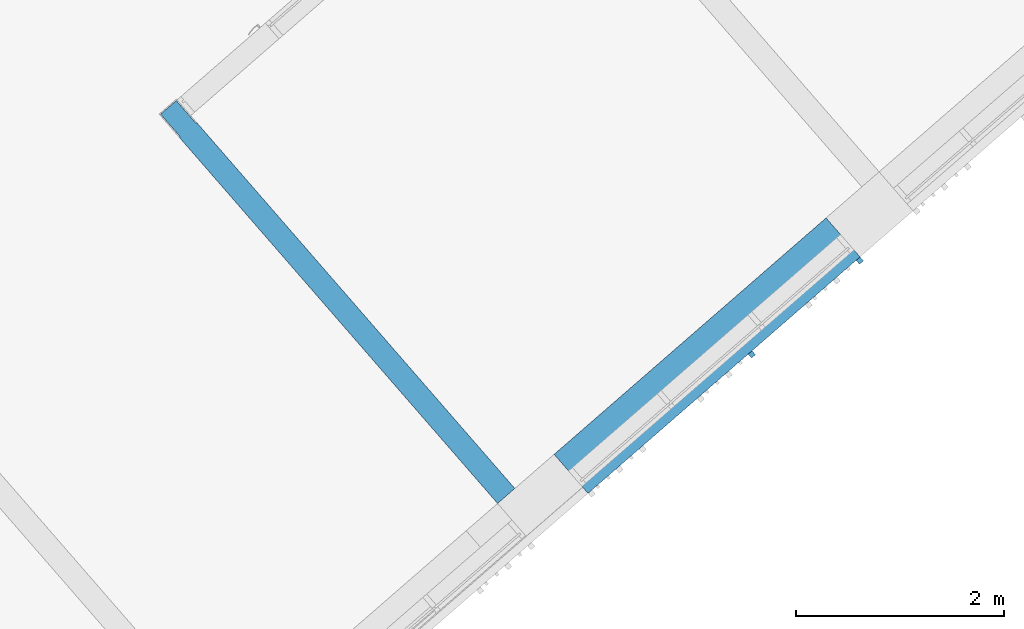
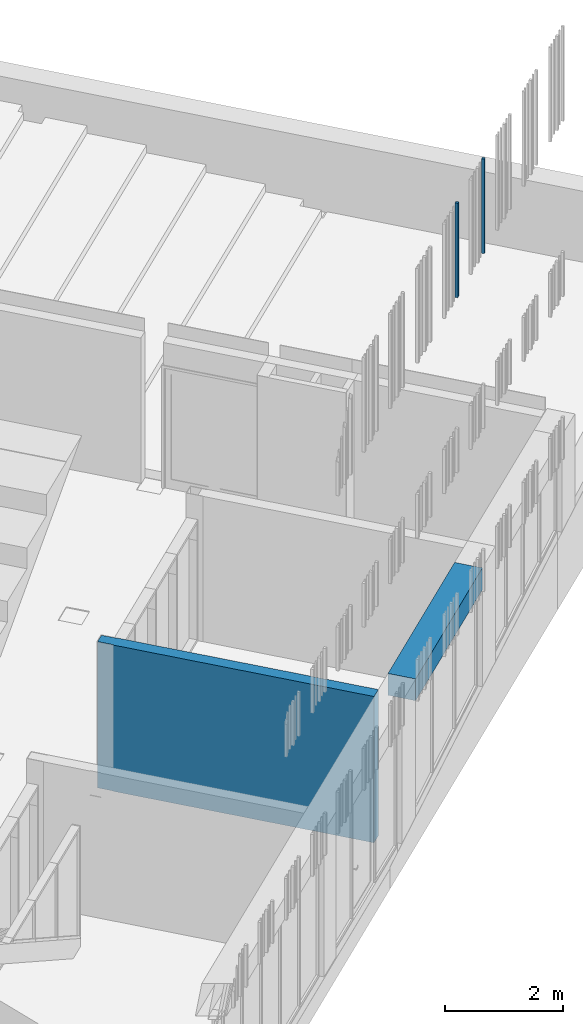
# One storey, part 71 of 124: 4 walls.
"""IFC2X3 building model written with IfcOpenShell, lengths in millimetres."""

from ifc_helpers import new_model, entity, si_unit, converted_unit, derived_unit, money_unit, direction, frame, origin_with_axes, place, context, subcontext, project, spatial, faceted_brep, material, material_list, type_object, element, save


model = new_model("IFC2X3")

# Units and contexts
model_context = context("Model", 3, precision=1e-05, world=origin_with_axes(), true_north=direction((0.0, 1.0)))
body_context = subcontext(model_context, "Body", "Model", "MODEL_VIEW")
ifc_project = project(units=[si_unit("LENGTHUNIT", "METRE", prefix="MILLI"), si_unit("AREAUNIT", "SQUARE_METRE"), si_unit("VOLUMEUNIT", "CUBIC_METRE"), converted_unit("PLANEANGLEUNIT", "DEGREE", entity("IfcPlaneAngleMeasure", 0.0174532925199), si_unit("PLANEANGLEUNIT", "RADIAN"), dimensions=[0, 0, 0, 0, 0, 0, 0]), si_unit("SOLIDANGLEUNIT", "STERADIAN"), money_unit("EUR"), converted_unit("TIMEUNIT", "Year", entity("IfcTimeMeasure", 31556926.0), si_unit("TIMEUNIT", "SECOND"), dimensions=[0, 0, 1, 0, 0, 0, 0]), si_unit("MASSUNIT", "GRAM", prefix="KILO"), si_unit("THERMODYNAMICTEMPERATUREUNIT", "DEGREE_CELSIUS"), si_unit("LUMINOUSINTENSITYUNIT", "LUMEN"), si_unit("ENERGYUNIT", "JOULE", prefix="MEGA"), derived_unit("THERMALCONDUCTANCEUNIT", [(si_unit("POWERUNIT", "WATT"), 1), (si_unit("LENGTHUNIT", "METRE"), -1), (si_unit("THERMODYNAMICTEMPERATUREUNIT", "KELVIN"), -1)]), derived_unit("SPECIFICHEATCAPACITYUNIT", [(si_unit("ENERGYUNIT", "JOULE"), 1), (si_unit("MASSUNIT", "GRAM", prefix="KILO"), -1), (si_unit("THERMODYNAMICTEMPERATUREUNIT", "KELVIN"), -1)]), derived_unit("MASSDENSITYUNIT", [(si_unit("MASSUNIT", "GRAM", prefix="KILO"), 1), (si_unit("VOLUMEUNIT", "CUBIC_METRE"), -1)])], contexts=[model_context])

# Site, building, storey
site_placement = place(None, origin_with_axes())
site = spatial("IfcSite", under=ifc_project, at=site_placement, Name="Site", CompositionType="ELEMENT")
building_placement = place(site_placement, origin_with_axes())
building = spatial("IfcBuilding", under=site, at=building_placement, Name="Building", CompositionType="ELEMENT")
storey_placement = place(building_placement, frame((0.0, 0.0, -1615.0), z_axis=(0.0, 0.0, 1.0), x_axis=(1.0, 0.0, 0.0)))
storey = spatial("IfcBuildingStorey", under=building, at=storey_placement, Name="0  korrus", CompositionType="ELEMENT", Elevation=-1615.0)

# Walls
ifc_material_1 = material(Name="Krohv - Lubjakivi")
ifc_material_2 = material(Name="Müüriplokk - Konstuktsioon")
ifc_material_list_1 = material_list([ifc_material_1, ifc_material_2, ifc_material_1])
wall_type_1 = type_object("IfcWallType", Name="SS-01", PredefinedType="NOTDEFINED")
wall_1_placement = place(storey_placement, frame((162278.704173, 92961.0632546, -20.0), z_axis=(0.0, 0.0, 1.0), x_axis=(0.656059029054, -0.754709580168, 0.0)))
element("IfcWall", 1, at=wall_1_placement, inside=storey, type_object=wall_type_1, material=ifc_material_list_1, Name="SS-01", context=body_context, shape_type="Brep", body=[
    faceted_brep([(300.0, 220.0, 0.0), (300.0, 220.0, 3020.0), (4960.00000126, 220.0, 3020.0), (4960.00000126, 220.0, 0.0), (300.0, 210.0, 3020.0), (300.0, 210.0, 0.0), (4960.00000126, 210.0, 3020.0), (4960.00000126, 210.0, 0.0)], [[[0, 1, 2, 3]], [[4, 1, 0, 5]], [[1, 4, 6, 2]], [[6, 7, 3, 2]], [[5, 0, 3, 7]], [[4, 5, 7, 6]]]),
    faceted_brep([(9.99999999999, 210.0, 0.0), (9.99999999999, 210.0, 3020.0), (4960.00000126, 210.0, 3020.0), (4960.00000126, 210.0, 0.0), (10.0, 10.0, 3020.0), (10.0, 10.0, 0.0), (4960.00000126, 9.99999999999, 3020.0), (4960.00000126, 9.99999999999, 0.0)], [[[0, 1, 2, 3]], [[4, 1, 0, 5]], [[1, 4, 6, 2]], [[2, 6, 7, 3]], [[5, 0, 3, 7]], [[4, 5, 7, 6]]]),
    faceted_brep([(300.0, 10.0, 0.0), (300.0, 10.0, 3020.0), (4960.00000126, 9.99999999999, 3020.0), (4960.00000126, 9.99999999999, 0.0), (300.0, 0.0, 3020.0), (300.0, 0.0, 0.0), (4960.00000126, 0.0, 3020.0), (4960.00000126, 0.0, 0.0)], [[[0, 1, 2, 3]], [[4, 1, 0, 5]], [[1, 4, 6, 2]], [[6, 7, 3, 2]], [[5, 0, 3, 7]], [[4, 5, 7, 6]]]),
])
ifc_material_3 = material(Name="Puit - Konstruktsioon")
ifc_material_4 = material(Name="Õhkvahe")
ifc_material_5 = material(Name="Soojustus - Plastik Kõva")
ifc_material_6 = material(Name="Raudbetoon - Toode")
ifc_material_list_2 = material_list([ifc_material_3, ifc_material_3, ifc_material_4, ifc_material_5, ifc_material_5, ifc_material_6, ifc_material_1])
wall_type_2 = type_object("IfcWallType", Name="VS-01", PredefinedType="NOTDEFINED")
wall_2_placement = place(storey_placement, frame((168691.216548, 91963.3107774, 2550.0), z_axis=(0.0, 0.0, 1.0), x_axis=(-0.754709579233, -0.656059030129, 0.0)))
element("IfcWall", 2, at=wall_2_placement, inside=storey, type_object=wall_type_2, material=ifc_material_list_2, Name="VS-01", context=body_context, shape_type="Brep", body=[
    faceted_brep([(3465.00000152, 497.0, 0.0), (3465.00000152, 475.0, 0.0), (0.0, 475.0, 0.0), (0.0, 497.0, 0.0), (3465.00000152, 497.0, 450.0), (3465.00000152, 475.0, 450.0), (0.0, 475.0, 450.0), (0.0, 497.0, 450.0)], [[[0, 1, 2, 3]], [[0, 4, 5, 1]], [[1, 5, 6, 2]], [[3, 2, 6, 7]], [[4, 0, 3, 7]], [[5, 4, 7, 6]]]),
    faceted_brep([(3465.00000152, 475.0, 0.0), (3465.00000152, 455.0, 0.0), (0.0, 455.0, 0.0), (0.0, 475.0, 0.0), (3465.00000152, 475.0, 450.0), (3465.00000152, 455.0, 450.0), (0.0, 455.0, 450.0), (0.0, 475.0, 450.0)], [[[0, 1, 2, 3]], [[0, 4, 5, 1]], [[1, 5, 6, 2]], [[3, 2, 6, 7]], [[4, 0, 3, 7]], [[5, 4, 7, 6]]]),
    faceted_brep([(3465.00000152, 455.0, 0.0), (3465.00000152, 410.0, 0.0), (0.0, 410.0, 0.0), (0.0, 455.0, 0.0), (3465.00000152, 455.0, 450.0), (3465.00000152, 410.0, 450.0), (0.0, 410.0, 450.0), (0.0, 455.0, 450.0)], [[[0, 1, 2, 3]], [[0, 4, 5, 1]], [[1, 5, 6, 2]], [[3, 2, 6, 7]], [[4, 0, 3, 7]], [[5, 4, 7, 6]]]),
    faceted_brep([(3465.00000152, 410.0, 0.0), (3465.00000152, 360.0, 0.0), (0.0, 360.0, 0.0), (0.0, 410.0, 0.0), (3465.00000152, 410.0, 450.0), (3465.00000152, 360.0, 450.0), (0.0, 360.0, 450.0), (0.0, 410.0, 450.0)], [[[0, 1, 2, 3]], [[0, 4, 5, 1]], [[1, 5, 6, 2]], [[3, 2, 6, 7]], [[4, 0, 3, 7]], [[5, 4, 7, 6]]]),
    faceted_brep([(3465.00000152, 360.0, 0.0), (3465.00000152, 210.0, 0.0), (0.0, 210.0, 0.0), (0.0, 360.0, 0.0), (3465.00000152, 360.0, 450.0), (3465.00000152, 210.0, 450.0), (0.0, 210.0, 450.0), (0.0, 360.0, 450.0)], [[[0, 1, 2, 3]], [[0, 4, 5, 1]], [[1, 5, 6, 2]], [[3, 2, 6, 7]], [[4, 0, 3, 7]], [[5, 4, 7, 6]]]),
    faceted_brep([(3465.00000152, 210.0, 0.0), (3465.00000152, 10.0, 0.0), (0.0, 10.0, 0.0), (0.0, 210.0, 0.0), (3465.00000152, 210.0, 450.0), (3465.00000152, 10.0, 450.0), (0.0, 10.0, 450.0), (0.0, 210.0, 450.0)], [[[0, 1, 2, 3]], [[0, 4, 5, 1]], [[1, 5, 6, 2]], [[3, 2, 6, 7]], [[4, 0, 3, 7]], [[5, 4, 7, 6]]]),
    faceted_brep([(3465.00000152, 10.0, 0.0), (3465.00000152, 0.0, 0.0), (0.0, 0.0, 0.0), (0.0, 10.0, 0.0), (3465.00000152, 10.0, 450.0), (3465.00000152, 0.0, 450.0), (0.0, 0.0, 450.0), (0.0, 10.0, 450.0)], [[[0, 1, 2, 3]], [[0, 4, 5, 1]], [[1, 5, 6, 2]], [[3, 2, 6, 7]], [[4, 0, 3, 7]], [[5, 4, 7, 6]]]),
])
ifc_material_7 = material(Name="Site specified")
wall_type_3 = type_object("IfcWallType", Name="Puitfassaadi ribistik", PredefinedType="NOTDEFINED")
for number, where, z_axis, x_axis, name in (
    (3, (167977.072454, 90650.8579974, 9530.0), (0.0, 0.0, 1.0), (-0.754709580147, -0.656059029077, 0.0), "Site specified"),
    (4, (169014.798127, 91552.9391624, 9530.0), (0.0, 0.0, 1.0), (-0.754709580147, -0.656059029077, 0.0), "Site specified"),
):
    element("IfcWall", number, at=place(storey_placement, frame(where, z_axis=z_axis, x_axis=x_axis)), inside=storey, type_object=wall_type_3, material=ifc_material_7, Name=name, context=body_context, shape_type="Brep", body=[
        faceted_brep([(25.0, 25.0, 1950.0), (25.0, 25.0, 0.0), (-25.0, 25.0, 0.0), (-25.0, 25.0, 1950.0), (25.0, -25.0, 1950.0), (25.0, -25.0, 0.0), (-25.0, -25.0, 0.0), (-25.0, -25.0, 1950.0)], [[[0, 1, 2, 3]], [[4, 5, 1, 0]], [[2, 1, 5, 6]], [[3, 2, 6, 7]], [[4, 0, 3, 7]], [[7, 6, 5, 4]]]),
    ])

save(model, "model.ifc")
